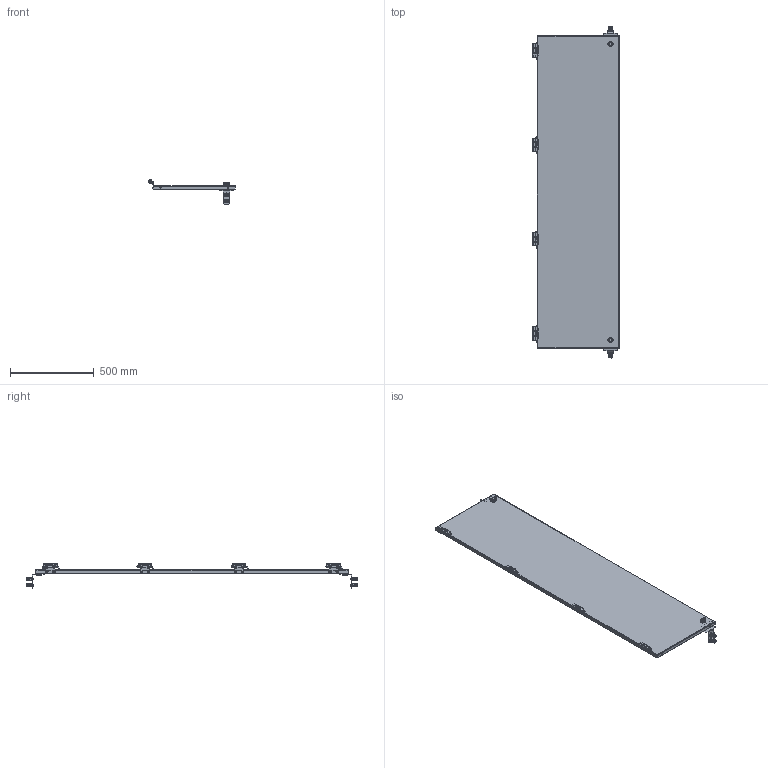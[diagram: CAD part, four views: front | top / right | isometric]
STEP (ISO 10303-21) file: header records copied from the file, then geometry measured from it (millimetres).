
FILE_DESCRIPTION((''),'2;1');
FILE_NAME('MODEL-080_ASM','2011-08-25T',('joelb'),(''),'PRO/ENGINEER BY PARAMETRIC TECHNOLOGY CORPORATION, 2009230','PRO/ENGINEER BY PARAMETRIC TECHNOLOGY CORPORATION, 2009230','');
FILE_SCHEMA(('AUTOMOTIVE_DESIGN { 1 0 10303 214 1 1 1 1 }'));
Length unit declared in the file: inch
Products named in the file (23): MODEL-080-PNL; 101080_SHAFT; 101080_HANDLE; 101080_INSERT; 101080_NUT; 101080_SCREW; 102804_CAM_28MM; 101080_ASM; 115751; 100022; 101686; 115751_ASM; 101369; 101369_PIN; 101369_ASM; 101670; 106491; 102470; 115169; 102528; 108363; 109582; MODEL-080_ASM
Assembly tree (54 placements, depth 3):
  MODEL-080_ASM
    MODEL-080-PNL
    101080_ASM  x2
      101080_SHAFT
      101080_HANDLE
      101080_INSERT
      101080_NUT
      101080_SCREW
      102804_CAM_28MM
    115751_ASM  x4
      115751
      100022
      101686
    101369_ASM  x4
      101369
      101369_PIN
    101670  x4
    106491  x8
    102470  x8
    115169  x2
    102528  x4
    108363  x4
    109582
Bounding box: 518.95 x 1987.33 x 143.73 mm (x, y, z)
Volume: 2192837.6 mm3; surface area: 2178716.9 mm2
Topology: 65 solids, 67 shells, 3200 faces, 7942 edges, 4752 vertices
Faces by surface type: plane 1212, cylinder 1138, bspline 284, torus 278, cone 188, sphere 100
Entity records: 45926 total; most frequent: CARTESIAN_POINT 17052, DIRECTION 5436, ORIENTED_EDGE 5200, EDGE_CURVE 2600, AXIS2_PLACEMENT_3D 2052, VERTEX_POINT 1620, VECTOR 1332, LINE 1332
